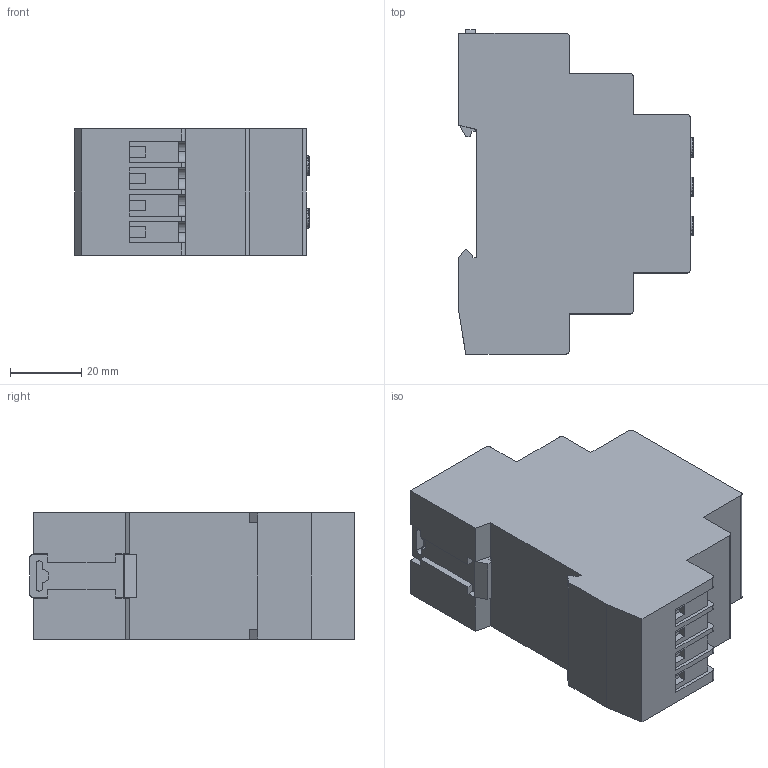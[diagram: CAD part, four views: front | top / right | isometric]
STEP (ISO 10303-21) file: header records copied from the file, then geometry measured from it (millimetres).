
FILE_DESCRIPTION (( 'STEP AP203' ), '1' );
FILE_NAME ('Ðåëå íàïðÿæåíèÿ RV-3NZC.STEP', '2021-11-25T20:44:06', ( '' ), ( '' ), 'SwSTEP 2.0', 'SolidWorks 2017', '' );
FILE_SCHEMA (( 'CONFIG_CONTROL_DESIGN' ));
Length unit declared in the file: millimetre
Products named in the file (1): Ðåëå íàïðÿæåíèÿ RV-3NZC
Bounding box: 65.8 x 91 x 35.4 mm (x, y, z)
Volume: 157754.8 mm3; surface area: 23335.6 mm2
Topology: 14 solids, 14 shells, 488 faces, 1319 edges, 868 vertices
Faces by surface type: plane 340, cylinder 120, torus 24, sphere 4
Entity records: 15290 total; most frequent: CARTESIAN_POINT 2664, ORIENTED_EDGE 2622, DIRECTION 2585, EDGE_CURVE 1311, VECTOR 1015, LINE 1015, VERTEX_POINT 864, AXIS2_PLACEMENT_3D 785
